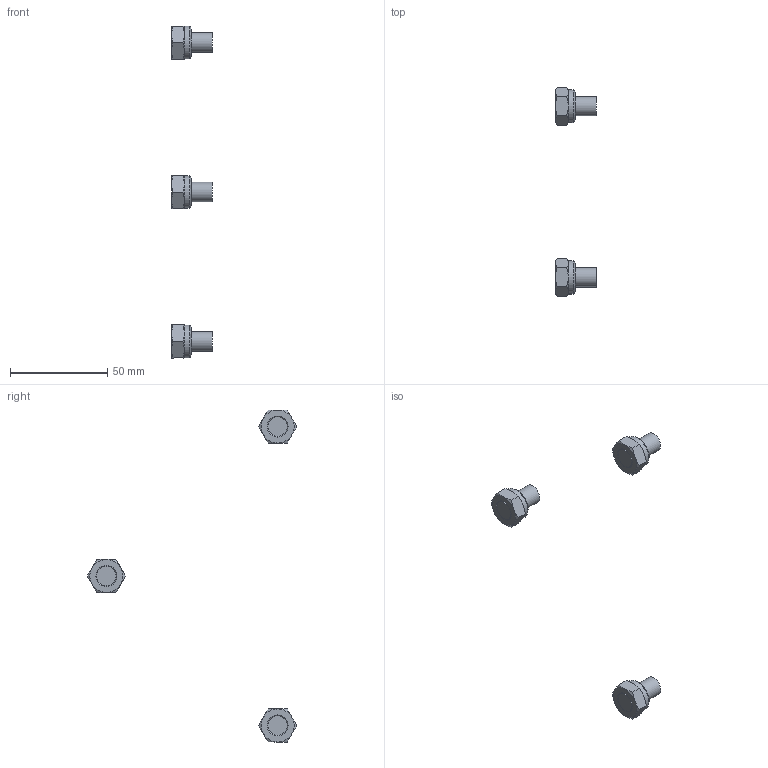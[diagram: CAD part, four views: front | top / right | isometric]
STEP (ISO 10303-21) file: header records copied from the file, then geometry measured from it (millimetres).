
FILE_DESCRIPTION (( 'STEP AP214' ), '1' );
FILE_NAME ('0304598.STEP', '2022-08-03T12:18:44', ( '' ), ( '' ), 'SwSTEP 2.0', 'SolidWorks 2020', '' );
FILE_SCHEMA (( 'AUTOMOTIVE_DESIGN' ));
Length unit declared in the file: millimetre
Products named in the file (3): 0304598; 0296271_001; 0304590_001
Assembly tree (8 placements, depth 2):
  0304598
    0304590_001  x4
    0296271_001  x4
Bounding box: 21 x 107.63 x 170.6 mm (x, y, z)
Volume: 13512.4 mm3; surface area: 8169.2 mm2
Topology: 8 solids, 8 shells, 140 faces, 272 edges, 164 vertices
Faces by surface type: plane 56, cone 56, cylinder 24, bspline 4
Full cylindrical faces by diameter (mm): 8.376 x8, 10 x4, 10.8 x8, 16.8 x4
Entity records: 1125 total; most frequent: CARTESIAN_POINT 295, DIRECTION 148, ORIENTED_EDGE 114, AXIS2_PLACEMENT_3D 71, EDGE_CURVE 57, EDGE_LOOP 50, FACE_OUTER_BOUND 42, VERTEX_POINT 39
